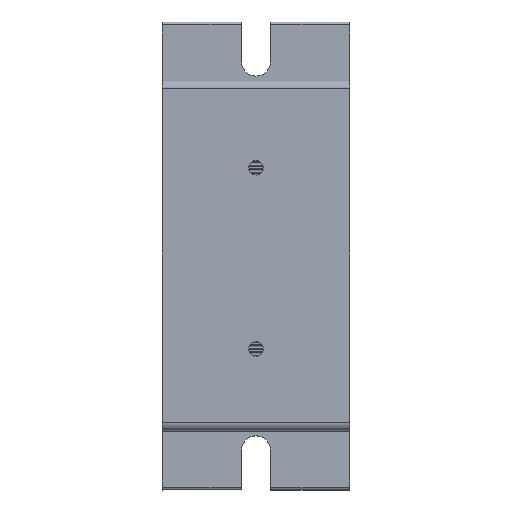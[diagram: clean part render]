
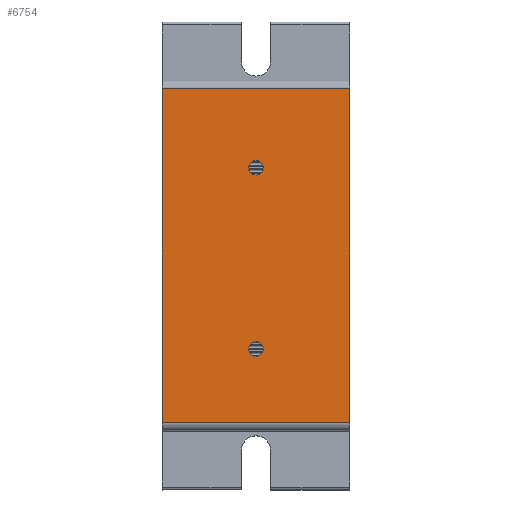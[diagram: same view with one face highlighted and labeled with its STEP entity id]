
A CAD part, top view. The second image highlights one B-rep face of the part: STEP entity #6754.
In plain terms, the highlighted planar face has unit normal (0, 0, 1).
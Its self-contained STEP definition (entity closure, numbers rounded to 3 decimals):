
#389 = LINE ( 'NONE', #23301, #24876 ) ;
#484 = VERTEX_POINT ( 'NONE', #28584 ) ;
#1177 = DIRECTION ( 'NONE',  ( 0., 0., 1. ) ) ;
#2333 = AXIS2_PLACEMENT_3D ( 'NONE', #12516, #18692, #15866 ) ;
#2804 = LINE ( 'NONE', #28713, #11455 ) ;
#3161 = CARTESIAN_POINT ( 'NONE',  ( 32., 11.5, 49.8 ) ) ;
#3633 = CARTESIAN_POINT ( 'NONE',  ( 0., 68.5, 49.8 ) ) ;
#3741 = ORIENTED_EDGE ( 'NONE', *, *, #6303, .F. ) ;
#3822 = DIRECTION ( 'NONE',  ( -1., 0., 0. ) ) ;
#3914 = VECTOR ( 'NONE', #18664, 1000. ) ;
#5403 = VERTEX_POINT ( 'NONE', #10321 ) ;
#6303 = EDGE_CURVE ( 'NONE', #5403, #14800, #34763, .T. ) ;
#6754 = ADVANCED_FACE ( 'NONE', ( #35943, #24093, #10196 ), #7006, .F. ) ;
#7006 = PLANE ( 'NONE',  #13787 ) ;
#7191 = CARTESIAN_POINT ( 'NONE',  ( 0., 68.5, 49.8 ) ) ;
#8023 = EDGE_CURVE ( 'NONE', #14800, #5403, #28464, .T. ) ;
#8083 = LINE ( 'NONE', #24805, #24454 ) ;
#8201 = EDGE_CURVE ( 'NONE', #20790, #37131, #389, .T. ) ;
#9840 = CARTESIAN_POINT ( 'NONE',  ( 16., 24., 49.8 ) ) ;
#9998 = CARTESIAN_POINT ( 'NONE',  ( 16., 55., 49.8 ) ) ;
#10196 = FACE_BOUND ( 'NONE', #10578, .T. ) ;
#10212 = CARTESIAN_POINT ( 'NONE',  ( 32., 68.5, 49.8 ) ) ;
#10321 = CARTESIAN_POINT ( 'NONE',  ( 17.25, 24., 49.8 ) ) ;
#10408 = ORIENTED_EDGE ( 'NONE', *, *, #17410, .F. ) ;
#10578 = EDGE_LOOP ( 'NONE', ( #17281, #24728 ) ) ;
#11455 = VECTOR ( 'NONE', #17827, 1000. ) ;
#12470 = DIRECTION ( 'NONE',  ( 0., 0., -1. ) ) ;
#12516 = CARTESIAN_POINT ( 'NONE',  ( 16., 24., 49.8 ) ) ;
#12540 = CIRCLE ( 'NONE', #28138, 1.25 ) ;
#12689 = VERTEX_POINT ( 'NONE', #26053 ) ;
#13388 = EDGE_CURVE ( 'NONE', #29839, #20790, #30299, .T. ) ;
#13502 = CIRCLE ( 'NONE', #16501, 1.25 ) ;
#13787 = AXIS2_PLACEMENT_3D ( 'NONE', #3633, #12470, #26732 ) ;
#14572 = DIRECTION ( 'NONE',  ( 0., 0., 1. ) ) ;
#14768 = DIRECTION ( 'NONE',  ( -1., 0., 0. ) ) ;
#14800 = VERTEX_POINT ( 'NONE', #33135 ) ;
#15866 = DIRECTION ( 'NONE',  ( -1., 0., 0. ) ) ;
#16501 = AXIS2_PLACEMENT_3D ( 'NONE', #28659, #14572, #14768 ) ;
#17281 = ORIENTED_EDGE ( 'NONE', *, *, #25541, .F. ) ;
#17383 = EDGE_LOOP ( 'NONE', ( #29809, #3741 ) ) ;
#17410 = EDGE_CURVE ( 'NONE', #27327, #29839, #2804, .T. ) ;
#17827 = DIRECTION ( 'NONE',  ( 1., 0., 0. ) ) ;
#18089 = DIRECTION ( 'NONE',  ( 0., 0., 1. ) ) ;
#18216 = CARTESIAN_POINT ( 'NONE',  ( 32., 68.5, 49.8 ) ) ;
#18664 = DIRECTION ( 'NONE',  ( 0., -1., 0. ) ) ;
#18680 = ORIENTED_EDGE ( 'NONE', *, *, #13388, .F. ) ;
#18692 = DIRECTION ( 'NONE',  ( 0., 0., 1. ) ) ;
#19009 = DIRECTION ( 'NONE',  ( -1., 0., 0. ) ) ;
#19554 = DIRECTION ( 'NONE',  ( 0., 1., 0. ) ) ;
#19704 = EDGE_LOOP ( 'NONE', ( #10408, #31742, #35292, #18680 ) ) ;
#20790 = VERTEX_POINT ( 'NONE', #3161 ) ;
#23301 = CARTESIAN_POINT ( 'NONE',  ( 0., 11.5, 49.8 ) ) ;
#24093 = FACE_BOUND ( 'NONE', #17383, .T. ) ;
#24454 = VECTOR ( 'NONE', #19554, 1000. ) ;
#24728 = ORIENTED_EDGE ( 'NONE', *, *, #29364, .F. ) ;
#24805 = CARTESIAN_POINT ( 'NONE',  ( 0., 68.5, 49.8 ) ) ;
#24876 = VECTOR ( 'NONE', #34775, 1000. ) ;
#25541 = EDGE_CURVE ( 'NONE', #12689, #484, #13502, .T. ) ;
#26053 = CARTESIAN_POINT ( 'NONE',  ( 14.75, 55., 49.8 ) ) ;
#26732 = DIRECTION ( 'NONE',  ( 1., 0., 0. ) ) ;
#27327 = VERTEX_POINT ( 'NONE', #7191 ) ;
#28138 = AXIS2_PLACEMENT_3D ( 'NONE', #9998, #1177, #19009 ) ;
#28361 = EDGE_CURVE ( 'NONE', #37131, #27327, #8083, .T. ) ;
#28464 = CIRCLE ( 'NONE', #29001, 1.25 ) ;
#28584 = CARTESIAN_POINT ( 'NONE',  ( 17.25, 55., 49.8 ) ) ;
#28659 = CARTESIAN_POINT ( 'NONE',  ( 16., 55., 49.8 ) ) ;
#28713 = CARTESIAN_POINT ( 'NONE',  ( 0., 68.5, 49.8 ) ) ;
#29001 = AXIS2_PLACEMENT_3D ( 'NONE', #9840, #18089, #3822 ) ;
#29045 = CARTESIAN_POINT ( 'NONE',  ( 0., 11.5, 49.8 ) ) ;
#29364 = EDGE_CURVE ( 'NONE', #484, #12689, #12540, .T. ) ;
#29809 = ORIENTED_EDGE ( 'NONE', *, *, #8023, .F. ) ;
#29839 = VERTEX_POINT ( 'NONE', #18216 ) ;
#30299 = LINE ( 'NONE', #10212, #3914 ) ;
#31742 = ORIENTED_EDGE ( 'NONE', *, *, #28361, .F. ) ;
#33135 = CARTESIAN_POINT ( 'NONE',  ( 14.75, 24., 49.8 ) ) ;
#34763 = CIRCLE ( 'NONE', #2333, 1.25 ) ;
#34775 = DIRECTION ( 'NONE',  ( -1., 0., 0. ) ) ;
#35292 = ORIENTED_EDGE ( 'NONE', *, *, #8201, .F. ) ;
#35943 = FACE_OUTER_BOUND ( 'NONE', #19704, .T. ) ;
#37131 = VERTEX_POINT ( 'NONE', #29045 ) ;
